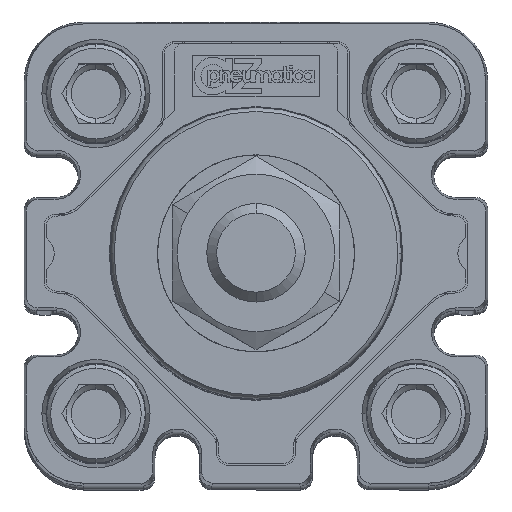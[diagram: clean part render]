
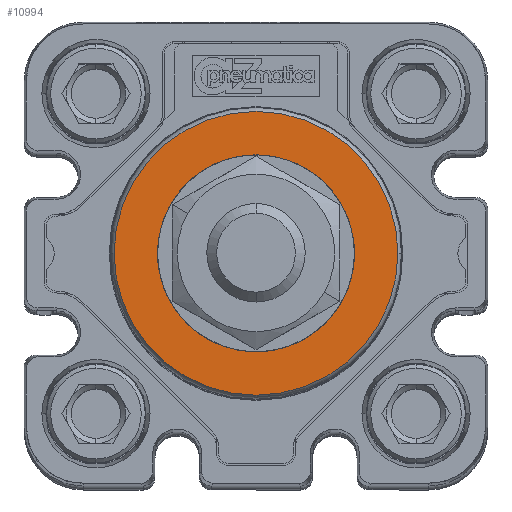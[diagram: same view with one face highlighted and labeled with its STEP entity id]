
A CAD part, top view. The second image highlights one B-rep face of the part: STEP entity #10994.
In plain terms, the highlighted planar face has unit normal (0, 0, 1) as drawn and (0, 0, -1) by its records, which use the part's own axes.
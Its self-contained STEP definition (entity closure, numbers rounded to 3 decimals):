
#3442 = CARTESIAN_POINT ( 'NONE',  ( 0., 0., -42.7 ) ) ;
#3525 = EDGE_CURVE ( 'NONE', #64409, #46625, #70021, .T. ) ;
#3862 = AXIS2_PLACEMENT_3D ( 'NONE', #29357, #62780, #7555 ) ;
#7012 = DIRECTION ( 'NONE',  ( 0., 0., 1. ) ) ;
#7555 = DIRECTION ( 'NONE',  ( -1., 0., 0. ) ) ;
#10267 = VERTEX_POINT ( 'NONE', #63958 ) ;
#10994 = ADVANCED_FACE ( 'NONE', ( #39825, #46733 ), #60404, .T. ) ;
#12873 = DIRECTION ( 'NONE',  ( -1., 0., 0. ) ) ;
#13406 = CIRCLE ( 'NONE', #3862, 14.408 ) ;
#13713 = AXIS2_PLACEMENT_3D ( 'NONE', #43133, #43584, #38228 ) ;
#14470 = ORIENTED_EDGE ( 'NONE', *, *, #29576, .F. ) ;
#15409 = ORIENTED_EDGE ( 'NONE', *, *, #50666, .F. ) ;
#19509 = CARTESIAN_POINT ( 'NONE',  ( 0., 0., -42.7 ) ) ;
#20423 = VERTEX_POINT ( 'NONE', #28855 ) ;
#21384 = EDGE_LOOP ( 'NONE', ( #14470, #15409 ) ) ;
#23090 = CARTESIAN_POINT ( 'NONE',  ( 0., 0., -42.7 ) ) ;
#24725 = CARTESIAN_POINT ( 'NONE',  ( 14.408, 0., -42.7 ) ) ;
#25089 = DIRECTION ( 'NONE',  ( -1., 0., 0. ) ) ;
#28855 = CARTESIAN_POINT ( 'NONE',  ( 10., 0., -42.7 ) ) ;
#29357 = CARTESIAN_POINT ( 'NONE',  ( 0., 0., -42.7 ) ) ;
#29576 = EDGE_CURVE ( 'NONE', #10267, #20423, #66398, .T. ) ;
#31436 = ORIENTED_EDGE ( 'NONE', *, *, #3525, .F. ) ;
#35501 = DIRECTION ( 'NONE',  ( 0., 0., -1. ) ) ;
#38228 = DIRECTION ( 'NONE',  ( -1., 0., 0. ) ) ;
#39825 = FACE_BOUND ( 'NONE', #21384, .T. ) ;
#41570 = AXIS2_PLACEMENT_3D ( 'NONE', #19509, #57793, #25089 ) ;
#42438 = CIRCLE ( 'NONE', #47308, 10. ) ;
#43133 = CARTESIAN_POINT ( 'NONE',  ( 0., 0., -42.7 ) ) ;
#43584 = DIRECTION ( 'NONE',  ( 0., 0., -1. ) ) ;
#46282 = AXIS2_PLACEMENT_3D ( 'NONE', #23090, #7012, #12873 ) ;
#46625 = VERTEX_POINT ( 'NONE', #54586 ) ;
#46733 = FACE_OUTER_BOUND ( 'NONE', #53924, .T. ) ;
#47308 = AXIS2_PLACEMENT_3D ( 'NONE', #3442, #35501, #69047 ) ;
#50666 = EDGE_CURVE ( 'NONE', #20423, #10267, #42438, .T. ) ;
#53924 = EDGE_LOOP ( 'NONE', ( #70694, #31436 ) ) ;
#54586 = CARTESIAN_POINT ( 'NONE',  ( -14.408, 0., -42.7 ) ) ;
#55013 = EDGE_CURVE ( 'NONE', #46625, #64409, #13406, .T. ) ;
#57793 = DIRECTION ( 'NONE',  ( 0., 0., -1. ) ) ;
#60404 = PLANE ( 'NONE',  #13713 ) ;
#62780 = DIRECTION ( 'NONE',  ( 0., 0., 1. ) ) ;
#63958 = CARTESIAN_POINT ( 'NONE',  ( -10., 0., -42.7 ) ) ;
#64409 = VERTEX_POINT ( 'NONE', #24725 ) ;
#66398 = CIRCLE ( 'NONE', #41570, 10. ) ;
#69047 = DIRECTION ( 'NONE',  ( -1., 0., 0. ) ) ;
#70021 = CIRCLE ( 'NONE', #46282, 14.408 ) ;
#70694 = ORIENTED_EDGE ( 'NONE', *, *, #55013, .F. ) ;
